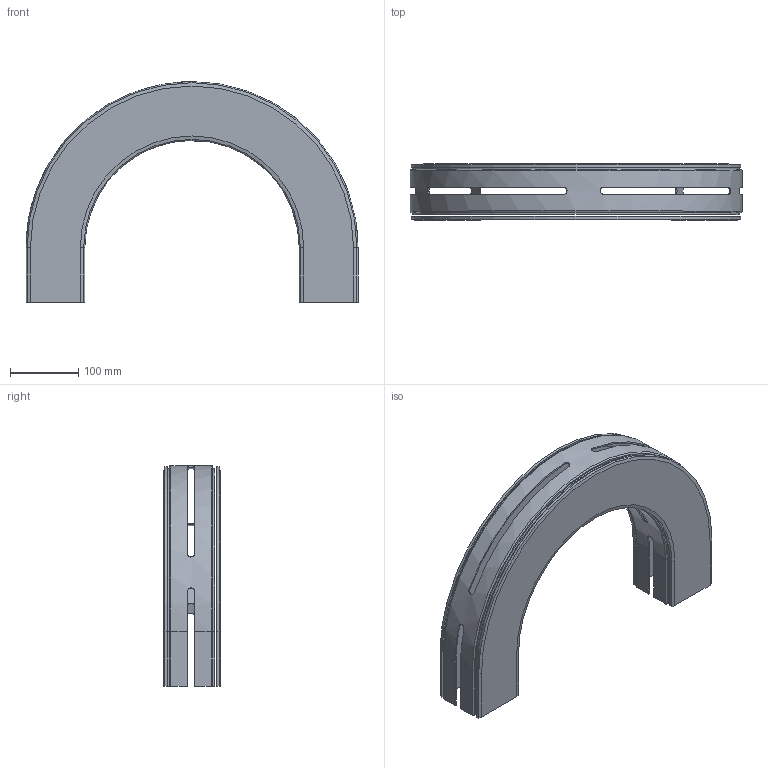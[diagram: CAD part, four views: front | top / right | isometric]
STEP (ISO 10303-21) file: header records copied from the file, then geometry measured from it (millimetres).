
FILE_DESCRIPTION(/* description */ ('GLIDKURVA SERIE 530'),/* implementation_level */ '2;1');
FILE_NAME(/* name */ '530-5375+830-2000-01.stp',/* time_stamp */ '2022-09-20T14:47:18+02:00',/* author */ ('Mathias.Dore'),/* organization */ ('CARRYLINE'),/* preprocessor_version */ 'ST-DEVELOPER v19.2',/* originating_system */ 'Autodesk Inventor 2023',/* authorisation */ '');
FILE_SCHEMA (('AUTOMOTIVE_DESIGN { 1 0 10303 214 3 1 1 }'));
Length unit declared in the file: millimetre
Products named in the file (1): 530-5375+830-2000-01
Bounding box: 486 x 82 x 323 mm (x, y, z)
Volume: 1141210.8 mm3; surface area: 546064.7 mm2
Topology: 2 solids, 2 shells, 183 faces, 506 edges, 332 vertices
Faces by surface type: plane 121, cylinder 28, bspline 26, torus 4, cone 4
Entity records: 6601 total; most frequent: CARTESIAN_POINT 1900, ORIENTED_EDGE 1012, DIRECTION 866, EDGE_CURVE 506, LINE 358, VECTOR 358, VERTEX_POINT 332, AXIS2_PLACEMENT_3D 254
